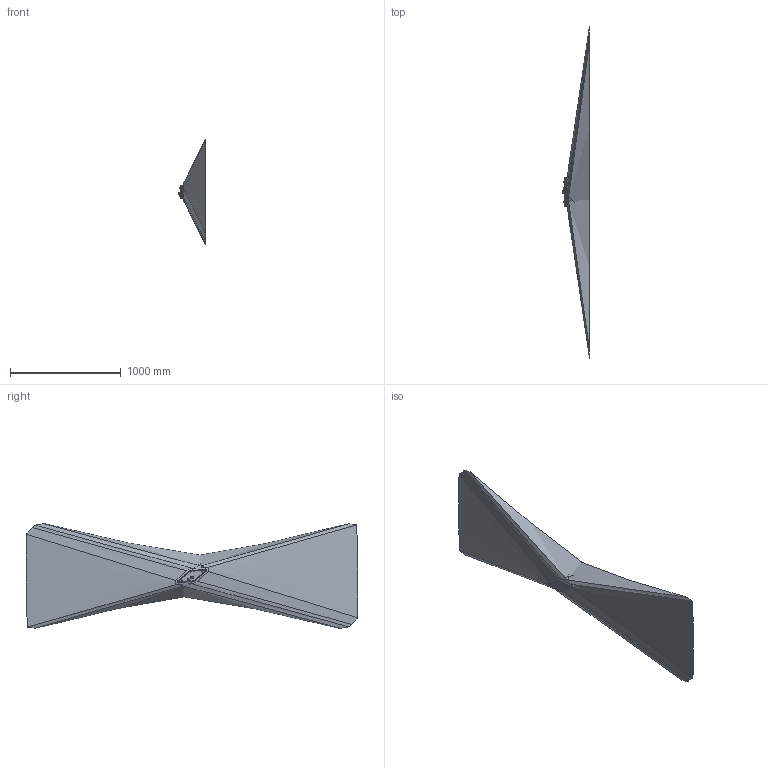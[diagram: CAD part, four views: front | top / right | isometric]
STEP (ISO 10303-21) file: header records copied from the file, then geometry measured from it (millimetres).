
FILE_DESCRIPTION(('CATIA V5 STEP Exchange','CAx-IF Rec.Pracs.--- Model Styling and Organization---1.5--- 2016-08-15','CAx-IF Rec.Pracs.---Supplemental Geometry---1.0---2011-11-01','CAx-IF Rec.Pracs.--- Composite Materials ---1.1---2010-07-15'),'2;1');
FILE_NAME('E:\tmp\ddx\2011206\HELLA_3D_data_tail-stop_light_SHAPELINE_style_013-342.stp','2022-01-18T07:39:48+00:00',('none'),('none'),'CATIA Version 5-6 Release 2020 SP3 HF9','CATIA V5 STEP AP214 Edition 3 v2','none');
FILE_SCHEMA(('AUTOMOTIVE_DESIGN { 1 0 10303 214 3 1 1 1 }'));
Products named in the file (1): 10002757276_D10_001
Bounding box: 243.1 x 3003.53 x 954.96 mm (x, y, z)
Volume: 364782.3 mm3; surface area: 2773920.7 mm2
Topology: 1 solids, 5 shells, 1384 faces, 3232 edges, 1848 vertices
Faces by surface type: bspline 486, cylinder 420, plane 209, torus 189, cone 58, sphere 18, extrusion 4
Entity records: 66374 total; most frequent: CARTESIAN_POINT 40212, ORIENTED_EDGE 6348, DIRECTION 3398, EDGE_CURVE 3208, VERTEX_POINT 1848, AXIS2_PLACEMENT_3D 1748, B_SPLINE_CURVE_WITH_KNOTS 1460, EDGE_LOOP 1414
